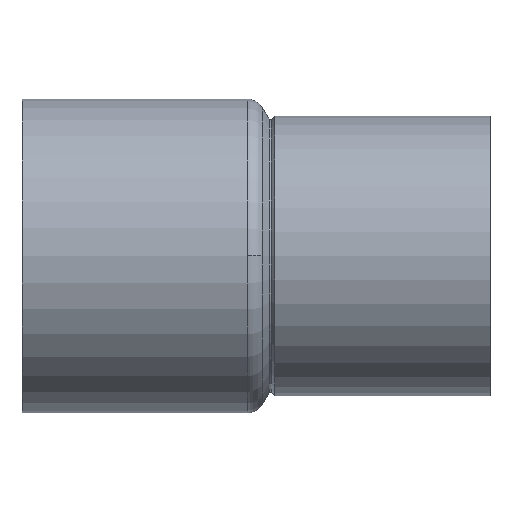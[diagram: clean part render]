
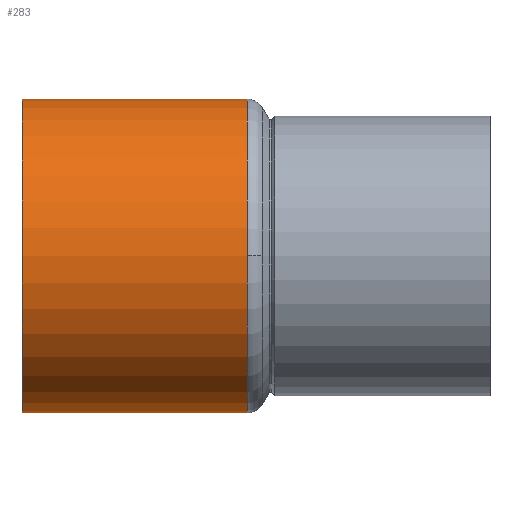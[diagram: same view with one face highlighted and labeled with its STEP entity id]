
A CAD part, top view. The second image highlights one B-rep face of the part: STEP entity #283.
In plain terms, the highlighted cylindrical face has radius 9.055 mm (diameter 18.11 mm), a partial arc.
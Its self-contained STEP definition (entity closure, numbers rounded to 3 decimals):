
#207=CARTESIAN_POINT('',(13.,9.055,0.0));
#208=VERTEX_POINT('',#207);
#216=CARTESIAN_POINT('',(13.0,0.,9.055));
#217=VERTEX_POINT('',#216);
#218=CARTESIAN_POINT('',(13.,0.0,0.0));
#219=DIRECTION('',(1.0,0.0,0.0));
#220=DIRECTION('',(0.0,1.0,0.0));
#221=AXIS2_PLACEMENT_3D('',#218,#219,#220);
#222=CIRCLE('',#221,9.055);
#223=EDGE_CURVE('',#208,#217,#222,.T.);
#243=CARTESIAN_POINT('',(6.5,0.0,0.0));
#244=DIRECTION('',(1.0,0.0,0.0));
#245=DIRECTION('',(0.0,1.0,0.0));
#246=AXIS2_PLACEMENT_3D('',#243,#244,#245);
#247=CYLINDRICAL_SURFACE('',#246,9.055);
#248=CARTESIAN_POINT('',(0.0,9.055,0.0));
#249=VERTEX_POINT('',#248);
#250=CARTESIAN_POINT('',(0.0,9.055,0.0));
#251=DIRECTION('',(1.0,0.0,0.0));
#252=VECTOR('',#251,13.);
#253=LINE('',#250,#252);
#254=EDGE_CURVE('',#249,#208,#253,.T.);
#255=ORIENTED_EDGE('',*,*,#254,.F.);
#256=CARTESIAN_POINT('',(0.0,-9.055,0.));
#257=VERTEX_POINT('',#256);
#258=CARTESIAN_POINT('',(0.0,0.0,0.0));
#259=DIRECTION('',(1.0,0.0,0.0));
#260=DIRECTION('',(0.0,1.0,0.0));
#261=AXIS2_PLACEMENT_3D('',#258,#259,#260);
#262=CIRCLE('',#261,9.055);
#263=EDGE_CURVE('',#249,#257,#262,.T.);
#264=ORIENTED_EDGE('',*,*,#263,.T.);
#265=CARTESIAN_POINT('',(13.,-9.055,0.));
#266=VERTEX_POINT('',#265);
#267=CARTESIAN_POINT('',(13.,-9.055,0.));
#268=DIRECTION('',(-1.0,0.0,0.0));
#269=VECTOR('',#268,13.);
#270=LINE('',#267,#269);
#271=EDGE_CURVE('',#266,#257,#270,.T.);
#272=ORIENTED_EDGE('',*,*,#271,.F.);
#273=CARTESIAN_POINT('',(13.,0.0,0.0));
#274=DIRECTION('',(1.0,0.0,0.0));
#275=DIRECTION('',(0.0,1.0,0.0));
#276=AXIS2_PLACEMENT_3D('',#273,#274,#275);
#277=CIRCLE('',#276,9.055);
#278=EDGE_CURVE('',#217,#266,#277,.T.);
#279=ORIENTED_EDGE('',*,*,#278,.F.);
#280=ORIENTED_EDGE('',*,*,#223,.F.);
#281=EDGE_LOOP('',(#255,#264,#272,#279,#280));
#282=FACE_OUTER_BOUND('',#281,.T.);
#283=ADVANCED_FACE('',(#282),#247,.T.);
